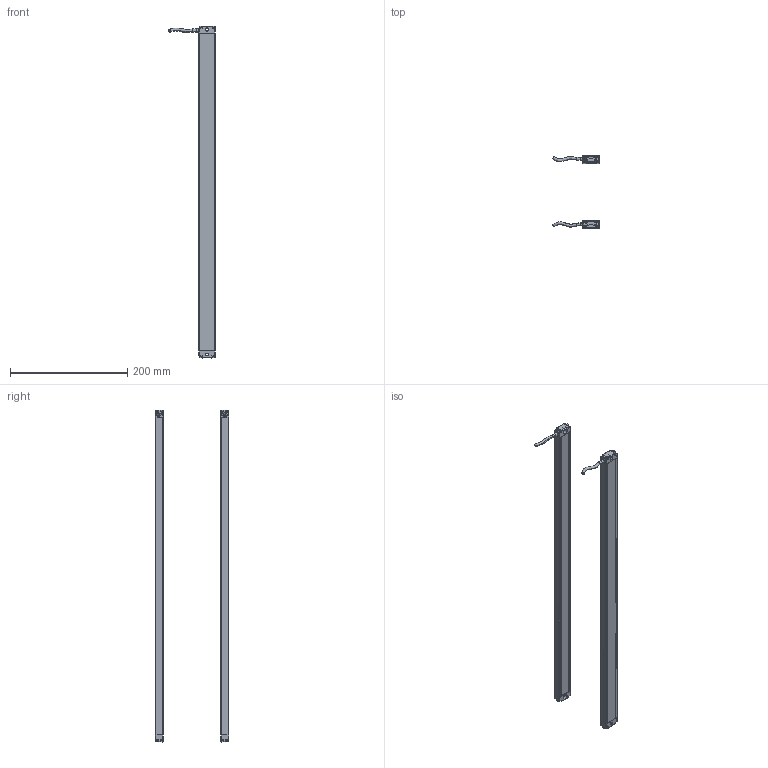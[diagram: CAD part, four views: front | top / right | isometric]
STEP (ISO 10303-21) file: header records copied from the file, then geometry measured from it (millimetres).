
FILE_DESCRIPTION(/* description */ (''),/* implementation_level */ '2;1');
FILE_NAME(/* name */ '5410(13x28w).stp',/* time_stamp */ '2023-10-23T09:35:38+08:00',/* author */ (''),/* organization */ (''),/* preprocessor_version */ 'ST-DEVELOPER v16.7',/* originating_system */ 'SIEMENS PLM Software NX 12.0',/* authorisation */ '');
FILE_SCHEMA (('AP203_CONFIGURATION_CONTROLLED_3D_DESIGN_OF_MECHANICAL_PARTS_AND_ASSEMBLIES_MIM_LF { 1 0 10303 403 2 1 2}'));
Length unit declared in the file: millimetre
Products named in the file (1): 5010_13x28w__stp
Bounding box: 79.6 x 125.02 x 566 mm (x, y, z)
Volume: 166151 mm3; surface area: 220413.4 mm2
Topology: 10 solids, 10 shells, 760 faces, 2126 edges, 1395 vertices
Faces by surface type: plane 356, cylinder 312, torus 52, bspline 40
Entity records: 28108 total; most frequent: CARTESIAN_POINT 8699, ORIENTED_EDGE 4252, DIRECTION 3737, EDGE_CURVE 2126, VERTEX_POINT 1395, AXIS2_PLACEMENT_3D 1261, LINE 1215, VECTOR 1215
